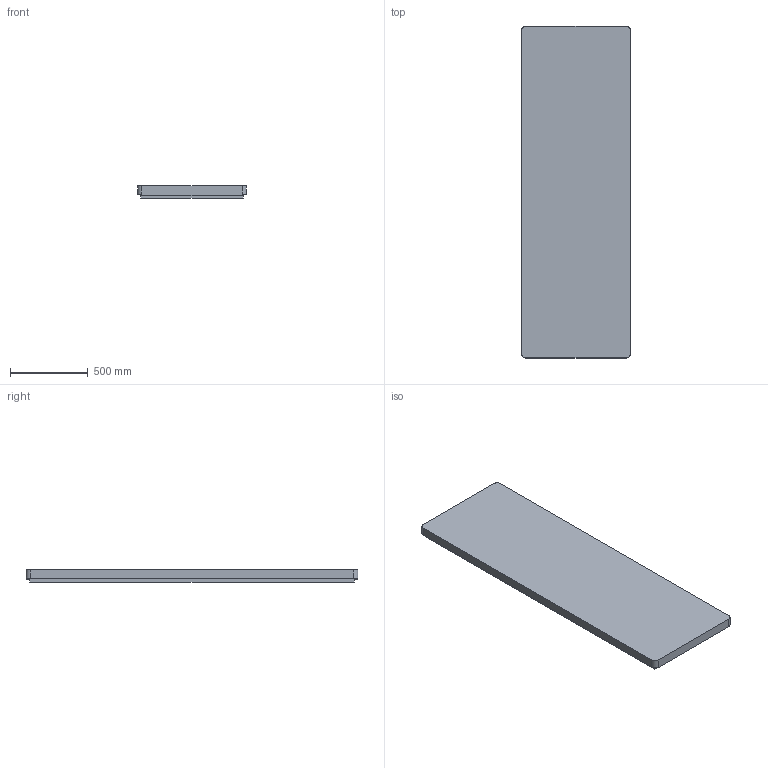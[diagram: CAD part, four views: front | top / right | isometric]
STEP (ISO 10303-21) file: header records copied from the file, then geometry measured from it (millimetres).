
FILE_DESCRIPTION(('CATIA V5 STEP Exchange'),'2;1');
FILE_NAME('E:\工作\张长江\H6-长卧铺数据制作\卧铺数据-1217\外发数据-20230203\SHT0015467.stp','2023-02-03T03:25:49+00:00',('none'),('none'),'CATIA Version 5 Release 20 GA (IN-10)','CATIA V5 STEP AP214','none');
FILE_SCHEMA(('AUTOMOTIVE_DESIGN { 1 0 10303 214 1 1 1 1 }'));
Length unit declared in the file: millimetre
Products named in the file (1): SHT0015467
Bounding box: 699.36 x 2132 x 80 mm (x, y, z)
Volume: 116571658.1 mm3; surface area: 3425357.4 mm2
Topology: 1 solids, 1 shells, 20 faces, 56 edges, 38 vertices
Faces by surface type: plane 14, cylinder 6
Entity records: 699 total; most frequent: CARTESIAN_POINT 156, ORIENTED_EDGE 112, DIRECTION 97, EDGE_CURVE 56, VECTOR 40, LINE 40, VERTEX_POINT 38, AXIS2_PLACEMENT_3D 36
